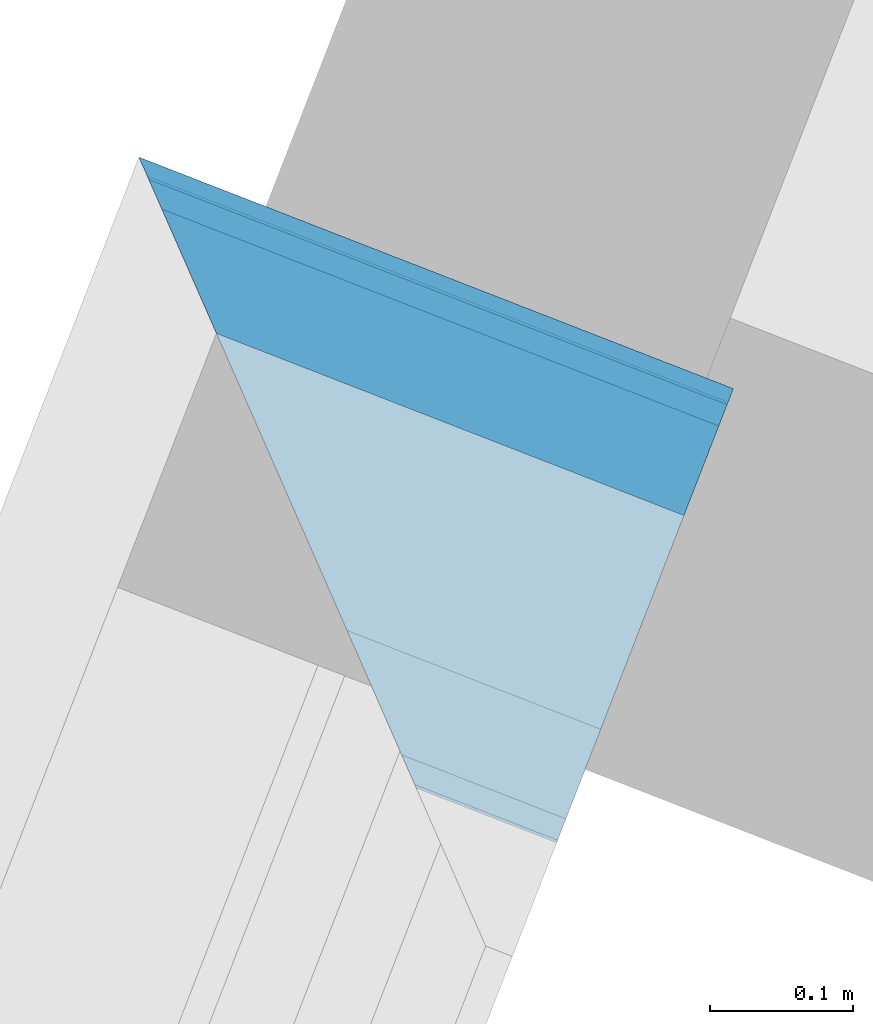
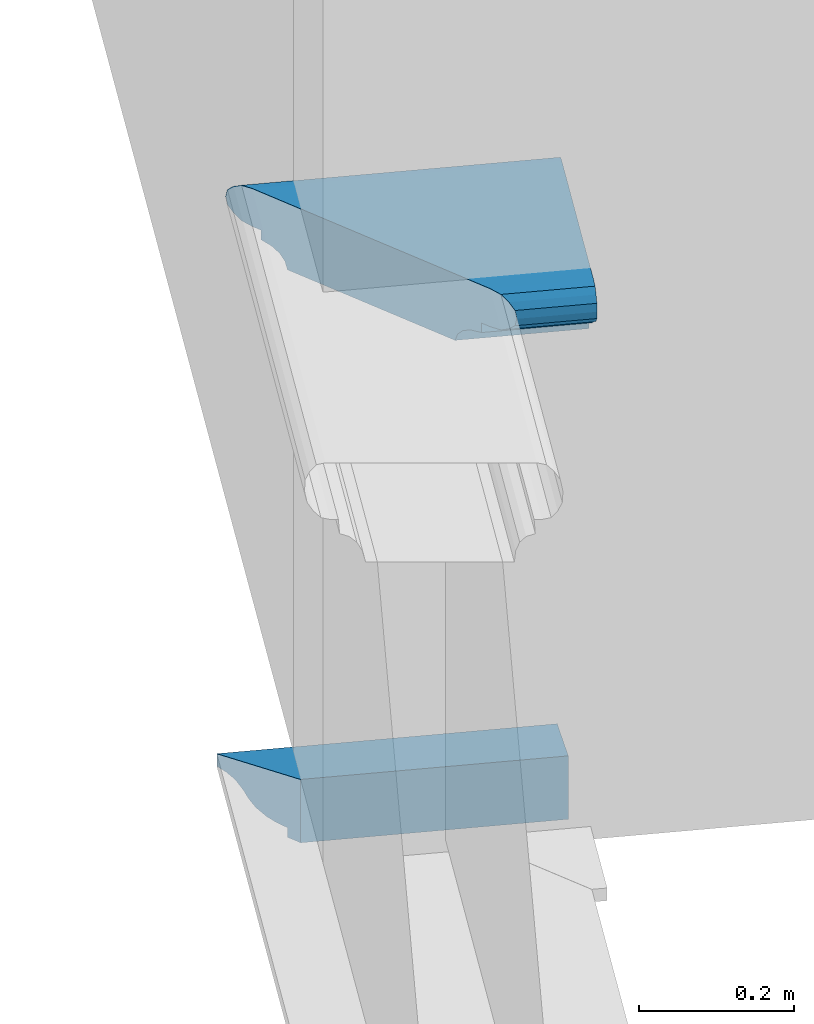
# One storey, part 4 of 5: 2 walls.
"""IFC4 building model written with IfcOpenShell, lengths in metres."""

import ifcopenshell
import ifcopenshell.guid

model = None  # the IFC model being written
_history = None  # IfcOwnerHistory: only IFC2X3 demands one
_inside = {}  # id of a spatial element -> (the spatial element, [elements in it])
_under = {}  # id of a project, library or spatial element -> (it, [spatial elements below it])
_declared = {}  # id of a project -> (the project, [libraries it declares])
_typed = {}  # id of a type object -> (the type object, [elements of that type])
_made_of = {}  # id of a material, layer set ... -> (it, [elements and type objects made of it])


def new_model(schema):
    """Start an empty IFC model of exactly this schema.

    Asked for "IFC4X3", IfcOpenShell would pick the latest addendum, in which some entities
    have other attributes; the version numbers below select the first issue.
    IFC2X3 requires an IfcOwnerHistory on every rooted entity: one is made here for all.
    """
    global model, _history
    if schema == "IFC4X3":
        model = ifcopenshell.file(schema_version=(4, 3, 0, 0))
    else:
        model = ifcopenshell.file(schema=schema)
    _inside.clear()
    _under.clear()
    _declared.clear()
    _typed.clear()
    _made_of.clear()
    _history = None
    if model.schema == "IFC2X3":
        org = make("IfcOrganization", Name="unknown")
        user = make(
            "IfcPersonAndOrganization",
            ThePerson=make("IfcPerson", FamilyName="unknown"),
            TheOrganization=org,
        )
        app = make(
            "IfcApplication",
            ApplicationDeveloper=org,
            Version="unknown",
            ApplicationFullName="unknown",
            ApplicationIdentifier="unknown",
        )
        _history = make(
            "IfcOwnerHistory",
            OwningUser=user,
            OwningApplication=app,
            ChangeAction="ADDED",
            CreationDate=0,
        )
    return model


def make(cls, **values):
    """One entity of the class cls with the attributes given. An attribute that is None is left unset."""
    return model.create_entity(
        cls, **{name: value for name, value in values.items() if value is not None}
    )


def rooted(cls, **values):
    """An entity with a GlobalId (a new one), such as an element, a storey or a relation."""
    return make(cls, GlobalId=ifcopenshell.guid.new(), OwnerHistory=_history, **values)


def si_unit(unit_type, name, prefix=None):
    """IfcSIUnit, for example si_unit("LENGTHUNIT", "METRE", prefix="MILLI")."""
    return make("IfcSIUnit", UnitType=unit_type, Prefix=prefix, Name=name)


def assignment(units):
    """IfcUnitAssignment: the units of a project."""
    return None if units is None else make("IfcUnitAssignment", Units=units)


def point(xyz):
    """IfcCartesianPoint."""
    return None if xyz is None else make("IfcCartesianPoint", Coordinates=xyz)


def direction(xyz):
    """IfcDirection."""
    return None if xyz is None else make("IfcDirection", DirectionRatios=xyz)


def frame(location, z_axis=None, x_axis=None):
    """IfcAxis2Placement3D, a coordinate frame: its origin and axes. An axis left out is left unset."""
    return make(
        "IfcAxis2Placement3D",
        Location=point(location),
        Axis=direction(z_axis),
        RefDirection=direction(x_axis),
    )


def origin_with_axes():
    """The frame at (0, 0, 0) with the z axis (0, 0, 1) and the x axis (1, 0, 0) written out."""
    return frame((0.0, 0.0, 0.0), z_axis=(0.0, 0.0, 1.0), x_axis=(1.0, 0.0, 0.0))


def place(relative_to, where):
    """IfcLocalPlacement: puts the frame where relative to a parent placement (None: the world)."""
    return make(
        "IfcLocalPlacement", PlacementRelTo=relative_to, RelativePlacement=where
    )


def context(
    kind, dimensions, precision=None, world=None, true_north=None, identifier=None
):
    """IfcGeometricRepresentationContext, for example the 3D "Model" context."""
    return make(
        "IfcGeometricRepresentationContext",
        ContextIdentifier=identifier,
        ContextType=kind,
        CoordinateSpaceDimension=dimensions,
        Precision=precision,
        WorldCoordinateSystem=world,
        TrueNorth=true_north,
    )


def subcontext(parent, identifier, kind, view, scale=None):
    """IfcGeometricRepresentationSubContext, for example "Body" below "Model"."""
    return make(
        "IfcGeometricRepresentationSubContext",
        ContextIdentifier=identifier,
        ContextType=kind,
        ParentContext=parent,
        TargetScale=scale,
        TargetView=view,
    )


def project(units=None, contexts=None):
    """IfcProject with its units and contexts."""
    return rooted(
        "IfcProject",
        Name="project",
        RepresentationContexts=contexts,
        UnitsInContext=assignment(units),
    )


def spatial(cls, under=None, at=None, **own):
    """A site, building, storey or space (cls), placed at a placement, below another one or the project."""
    s = rooted(cls, ObjectPlacement=at, **own)
    if under is not None:
        _under.setdefault(under.id(), (under, []))[1].append(s)
    return s


def polyline(points):
    """IfcPolyline through the points."""
    return make("IfcPolyline", Points=[point(p) for p in points])


def outline(outer, holes=None, kind="AREA"):
    """IfcArbitraryClosedProfileDef: a profile drawn as a closed curve; with holes, ...WithVoids."""
    if holes is None:
        return make("IfcArbitraryClosedProfileDef", ProfileType=kind, OuterCurve=outer)
    return make(
        "IfcArbitraryProfileDefWithVoids",
        ProfileType=kind,
        OuterCurve=outer,
        InnerCurves=holes,
    )


def extrude(swept, where, along, depth):
    """IfcExtrudedAreaSolid: the profile swept, set in the frame where, extruded along a direction by depth."""
    return make(
        "IfcExtrudedAreaSolid",
        SweptArea=swept,
        Position=where,
        ExtrudedDirection=direction(along),
        Depth=depth,
    )


def clip(a, b, op="DIFFERENCE"):
    """IfcBooleanClippingResult: the solid a cut by the half space b."""
    return make(
        "IfcBooleanClippingResult", Operator=op, FirstOperand=a, SecondOperand=b
    )


def halfspace(plane, agree):
    """IfcHalfSpaceSolid: all space on one side of the plane z = 0 of the frame plane."""
    return make(
        "IfcHalfSpaceSolid",
        BaseSurface=make("IfcPlane", Position=plane),
        AgreementFlag=agree,
    )


def shape(context_of_items, identifier, shape_type, items):
    """IfcShapeRepresentation: the items that make up one representation, for example the "Body"."""
    return make(
        "IfcShapeRepresentation",
        ContextOfItems=context_of_items,
        RepresentationIdentifier=identifier,
        RepresentationType=shape_type,
        Items=items,
    )


def material_profile(
    of_material, cross_section, Name=None, Category=None, Priority=None
):
    """IfcMaterialProfile: a cross section and its material."""
    return make(
        "IfcMaterialProfile",
        Name=Name,
        Material=of_material,
        Profile=cross_section,
        Priority=Priority,
        Category=Category,
    )


def profile_set(profiles, Name=None, composite=None):
    """IfcMaterialProfileSet."""
    return make(
        "IfcMaterialProfileSet",
        Name=Name,
        MaterialProfiles=profiles,
        CompositeProfile=composite,
    )


def profile_usage(for_profile_set, cardinal=None, extent=None):
    """IfcMaterialProfileSetUsage: how a profile set lies along its element."""
    return make(
        "IfcMaterialProfileSetUsage",
        ForProfileSet=for_profile_set,
        CardinalPoint=cardinal,
        ReferenceExtent=extent,
    )


def made_of(thing, what):
    """Note that an element or type object is made of a material, layer set ...; save() writes the relation."""
    if what is not None:
        _made_of.setdefault(what.id(), (what, []))[1].append(thing)
    return thing


def type_object(cls, material=None, **own):
    """A type object (cls), such as IfcWallType, which elements share."""
    return made_of(rooted(cls, **own), material)


def element(
    cls,
    number,
    at=None,
    inside=None,
    cuts=None,
    type_object=None,
    material=None,
    context=None,
    identifier="Body",
    shape_type=None,
    held_by="IfcProductDefinitionShape",
    body=None,
    shapes=None,
    **own,
):
    """One element of the class cls, such as IfcWall. Its Tag is "e" and its number.

    at: its placement. inside: the storey or other place that contains it. cuts: it is an
    opening in that element (IfcRelVoidsElement). A single representation is given by context,
    identifier, shape_type and body (its items); several are given by shapes. held_by: the class
    of the entity that holds the representations. save() writes the other relations.
    """
    e = rooted(cls, Tag="e%d" % number, ObjectPlacement=at, **own)
    if body is not None:
        shapes = [shape(context, identifier, shape_type, body)]
    if shapes is not None:
        e.Representation = make(held_by, Representations=shapes)
    if inside is not None:
        _inside.setdefault(inside.id(), (inside, []))[1].append(e)
    if cuts is not None:
        rooted(
            "IfcRelVoidsElement", RelatingBuildingElement=cuts, RelatedOpeningElement=e
        )
    if type_object is not None:
        _typed.setdefault(type_object.id(), (type_object, []))[1].append(e)
    return made_of(e, material)


def aggregate(whole, parts):
    """IfcRelAggregates: a whole, such as a stair, and the parts it consists of."""
    return rooted("IfcRelAggregates", RelatingObject=whole, RelatedObjects=parts)


def save(model, path):
    """Write the relations noted so far, then the file.

    IfcRelAggregates (storeys below a building ...), IfcRelContainedInSpatialStructure (elements
    in a storey), IfcRelDefinesByType, IfcRelAssociatesMaterial and IfcRelDeclares: one each for
    every whole, place, type object, material and project.
    """
    for whole, parts in _under.values():
        aggregate(whole, parts)
    for where, things in _inside.values():
        rooted(
            "IfcRelContainedInSpatialStructure",
            RelatedElements=things,
            RelatingStructure=where,
        )
    for kind, things in _typed.values():
        rooted("IfcRelDefinesByType", RelatedObjects=things, RelatingType=kind)
    for what, things in _made_of.values():
        rooted("IfcRelAssociatesMaterial", RelatedObjects=things, RelatingMaterial=what)
    for by, libraries in _declared.values():
        rooted("IfcRelDeclares", RelatingContext=by, RelatedDefinitions=libraries)
    model.write(path)


model = new_model("IFC4")

# Units and contexts
model_context = context("Model", 3, world=origin_with_axes())
body_context = subcontext(model_context, "Body", "Model", "MODEL_VIEW")
ifc_project = project(units=[si_unit("PLANEANGLEUNIT", "RADIAN"), si_unit("MASSUNIT", "GRAM", prefix="KILO"), si_unit("FORCEUNIT", "NEWTON", prefix="KILO"), si_unit("LENGTHUNIT", "METRE"), si_unit("AREAUNIT", "SQUARE_METRE"), si_unit("VOLUMEUNIT", "CUBIC_METRE")], contexts=[model_context, model_context])

# Sites, building, storey
site_1_placement = place(None, origin_with_axes())
site_1 = spatial("IfcSite", under=ifc_project, at=site_1_placement, Name="Tamar")
site_2_placement = place(site_1_placement, origin_with_axes())
site_2 = spatial("IfcSite", under=site_1, at=site_2_placement, Name="Site plot-10", CompositionType="ELEMENT")
building_placement = place(None, origin_with_axes())
building = spatial("IfcBuilding", under=site_2, at=building_placement, Name="Building plot-10", CompositionType="ELEMENT")
storey_placement = place(None, frame((0.0, 0.0, 30.1), z_axis=(0.0, 0.0, 1.0), x_axis=(1.0, 0.0, 0.0)))
storey = spatial("IfcBuildingStorey", under=building, at=storey_placement, Name="plot-10 1", CompositionType="ELEMENT", Elevation=30.1)

# Walls
ifc_material_profile_1 = material_profile(None, outline(polyline([(0.265, 0.795), (0.268, 0.807), (0.274, 0.816), (0.283, 0.822), (0.295, 0.825), (0.295, 0.84), (0.305, 0.84), (0.317, 0.842), (0.326, 0.849), (0.333, 0.858), (0.335, 0.87), (0.333, 0.882), (0.326, 0.891), (0.317, 0.898), (0.305, 0.9), (0.035, 0.9), (0.023, 0.898), (0.014, 0.891), (0.007, 0.882), (0.005, 0.87), (0.007, 0.858), (0.014, 0.849), (0.023, 0.842), (0.035, 0.84), (0.045, 0.84), (0.045, 0.825), (0.057, 0.822), (0.066, 0.816), (0.072, 0.807), (0.075, 0.795), (0.265, 0.795)])))
ifc_profile_set_1 = profile_set([ifc_material_profile_1])
ifc_profile_usage_1 = profile_usage(ifc_profile_set_1)
wall_type_1 = type_object("IfcWallType", Name="parapet_1", PredefinedType="PARAPET", material=ifc_profile_set_1)
wall_1_placement = place(storey_placement, frame((230.421928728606, 320.233932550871, 0.0), z_axis=(0.931863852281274, -0.362808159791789, 0.0), x_axis=(0.362808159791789, 0.931863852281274, 0.0)))
element("IfcWall", 1, at=wall_1_placement, inside=storey, type_object=wall_type_1, material=ifc_profile_usage_1, Name="parapet_1", context=body_context, shape_type="Clipping", body=[
    clip(clip(extrude(outline(polyline([(0.265, 0.795), (0.268, 0.807), (0.274, 0.816), (0.283, 0.822), (0.295, 0.825), (0.295, 0.84), (0.305, 0.84), (0.317, 0.842), (0.326, 0.849), (0.333, 0.858), (0.335, 0.87), (0.333, 0.882), (0.326, 0.891), (0.317, 0.898), (0.305, 0.9), (0.035, 0.9), (0.023, 0.898), (0.014, 0.891), (0.007, 0.882), (0.005, 0.87), (0.007, 0.858), (0.014, 0.849), (0.023, 0.842), (0.035, 0.84), (0.045, 0.84), (0.045, 0.825), (0.057, 0.822), (0.066, 0.816), (0.072, 0.807), (0.075, 0.795), (0.265, 0.795)])), origin_with_axes(), (0.0, 0.0, 1.0), 2.10000000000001), halfspace(frame((0.0, 0.0, 1.10000000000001), z_axis=(1.41496223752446e-14, 0.0, -1.0), x_axis=(0.0, 1.0, 0.0)), True)), halfspace(frame((0.0, 0.0, 1.0), z_axis=(-0.707106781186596, 0.0, -0.707106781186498), x_axis=(0.0, 1.0, 0.0)), False)),
])
ifc_material_profile_2 = material_profile(None, outline(polyline([(0.25, -0.1), (0.265, -0.1), (0.265, -0.085), (0.278, -0.084), (0.289, -0.081), (0.301, -0.074), (0.309, -0.065), (0.315, -0.055), (0.324, -0.044), (0.334, -0.038), (0.345, -0.035), (0.345, -0.015), (0.25, 0.0), (0.25, -0.1)])))
ifc_profile_set_2 = profile_set([ifc_material_profile_2])
ifc_profile_usage_2 = profile_usage(ifc_profile_set_2)
wall_type_2 = type_object("IfcWallType", Name="parapet_2", PredefinedType="PARAPET", material=ifc_profile_set_2)
wall_2_placement = place(storey_placement, frame((230.421928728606, 320.233932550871, 0.0), z_axis=(0.931863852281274, -0.362808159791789, 0.0), x_axis=(0.362808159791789, 0.931863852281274, 0.0)))
element("IfcWall", 2, at=wall_2_placement, inside=storey, type_object=wall_type_2, material=ifc_profile_usage_2, Name="parapet_2", context=body_context, shape_type="Clipping", body=[
    clip(clip(extrude(outline(polyline([(0.25, -0.1), (0.265, -0.1), (0.265, -0.085), (0.278, -0.084), (0.289, -0.081), (0.301, -0.074), (0.309, -0.065), (0.315, -0.055), (0.324, -0.044), (0.334, -0.038), (0.345, -0.035), (0.345, -0.015), (0.25, 0.0), (0.25, -0.1)])), origin_with_axes(), (0.0, 0.0, 1.0), 2.10000000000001), halfspace(frame((0.0, 0.0, 1.10000000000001), z_axis=(1.41496223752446e-14, 0.0, -1.0), x_axis=(0.0, 1.0, 0.0)), True)), halfspace(frame((0.0, 0.0, 1.0), z_axis=(-0.707106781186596, 0.0, -0.707106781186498), x_axis=(0.0, 1.0, 0.0)), False)),
])

save(model, "model.ifc")
